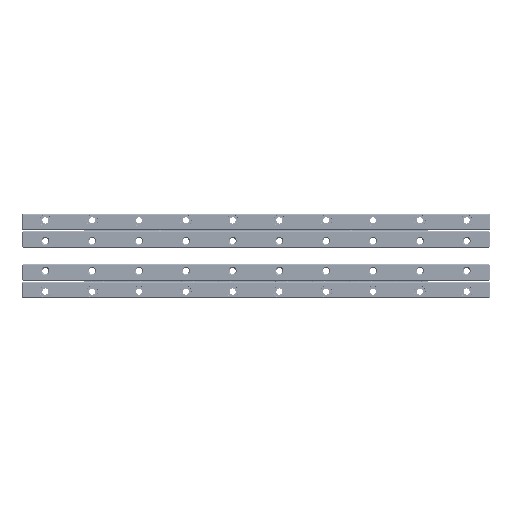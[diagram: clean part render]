
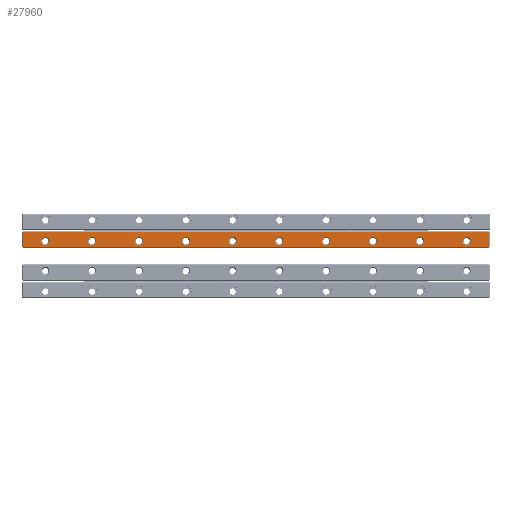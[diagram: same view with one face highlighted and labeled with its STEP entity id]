
A CAD part, top view. The second image highlights one B-rep face of the part: STEP entity #27960.
In plain terms, the highlighted planar face has unit normal (0, 0, 1).
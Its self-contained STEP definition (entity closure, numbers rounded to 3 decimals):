
#1906=LINE('',#170514,#10946);
#1907=LINE('',#170517,#10947);
#1908=LINE('',#170519,#10948);
#1909=LINE('',#170521,#10949);
#10946=VECTOR('',#135041,1.);
#10947=VECTOR('',#135042,1.);
#10948=VECTOR('',#135043,1.);
#10949=VECTOR('',#135044,1.);
#24401=FACE_BOUND('',#42339,.T.);
#24402=FACE_BOUND('',#42340,.T.);
#24403=FACE_BOUND('',#42341,.T.);
#24404=FACE_BOUND('',#42342,.T.);
#24405=FACE_BOUND('',#42343,.T.);
#24406=FACE_BOUND('',#42344,.T.);
#24407=FACE_BOUND('',#42345,.T.);
#24408=FACE_BOUND('',#42346,.T.);
#24409=FACE_BOUND('',#42347,.T.);
#24410=FACE_BOUND('',#42348,.T.);
#24411=FACE_BOUND('',#42349,.T.);
#27960=ADVANCED_FACE('',(#24401,#24402,#24403,#24404,#24405,#24406,#24407,
#24408,#24409,#24410,#24411),#33943,.T.);
#33943=PLANE('',#119880);
#42339=EDGE_LOOP('',(#52457));
#42340=EDGE_LOOP('',(#52458));
#42341=EDGE_LOOP('',(#52459));
#42342=EDGE_LOOP('',(#52460));
#42343=EDGE_LOOP('',(#52461));
#42344=EDGE_LOOP('',(#52462));
#42345=EDGE_LOOP('',(#52463));
#42346=EDGE_LOOP('',(#52464));
#42347=EDGE_LOOP('',(#52465));
#42348=EDGE_LOOP('',(#52466));
#42349=EDGE_LOOP('',(#52467,#52468,#52469,#52470));
#52457=ORIENTED_EDGE('',*,*,#95509,.T.);
#52458=ORIENTED_EDGE('',*,*,#95510,.T.);
#52459=ORIENTED_EDGE('',*,*,#95511,.T.);
#52460=ORIENTED_EDGE('',*,*,#95512,.T.);
#52461=ORIENTED_EDGE('',*,*,#95513,.T.);
#52462=ORIENTED_EDGE('',*,*,#95514,.T.);
#52463=ORIENTED_EDGE('',*,*,#95515,.T.);
#52464=ORIENTED_EDGE('',*,*,#95516,.T.);
#52465=ORIENTED_EDGE('',*,*,#95517,.T.);
#52466=ORIENTED_EDGE('',*,*,#95518,.T.);
#52467=ORIENTED_EDGE('',*,*,#95519,.T.);
#52468=ORIENTED_EDGE('',*,*,#95520,.T.);
#52469=ORIENTED_EDGE('',*,*,#95521,.T.);
#52470=ORIENTED_EDGE('',*,*,#95522,.T.);
#83765=VERTEX_POINT('',#170495);
#83766=VERTEX_POINT('',#170497);
#83767=VERTEX_POINT('',#170499);
#83768=VERTEX_POINT('',#170501);
#83769=VERTEX_POINT('',#170503);
#83770=VERTEX_POINT('',#170505);
#83771=VERTEX_POINT('',#170507);
#83772=VERTEX_POINT('',#170509);
#83773=VERTEX_POINT('',#170511);
#83774=VERTEX_POINT('',#170513);
#83775=VERTEX_POINT('',#170515);
#83776=VERTEX_POINT('',#170516);
#83777=VERTEX_POINT('',#170518);
#83778=VERTEX_POINT('',#170520);
#95509=EDGE_CURVE('',#83765,#83765,#112682,.T.);
#95510=EDGE_CURVE('',#83766,#83766,#112683,.T.);
#95511=EDGE_CURVE('',#83767,#83767,#112684,.T.);
#95512=EDGE_CURVE('',#83768,#83768,#112685,.T.);
#95513=EDGE_CURVE('',#83769,#83769,#112686,.T.);
#95514=EDGE_CURVE('',#83770,#83770,#112687,.T.);
#95515=EDGE_CURVE('',#83771,#83771,#112688,.T.);
#95516=EDGE_CURVE('',#83772,#83772,#112689,.T.);
#95517=EDGE_CURVE('',#83773,#83773,#112690,.T.);
#95518=EDGE_CURVE('',#83774,#83774,#112691,.T.);
#95519=EDGE_CURVE('',#83775,#83776,#1906,.T.);
#95520=EDGE_CURVE('',#83776,#83777,#1907,.T.);
#95521=EDGE_CURVE('',#83777,#83778,#1908,.T.);
#95522=EDGE_CURVE('',#83778,#83775,#1909,.T.);
#112682=CIRCLE('',#119870,2.175);
#112683=CIRCLE('',#119871,2.175);
#112684=CIRCLE('',#119872,2.175);
#112685=CIRCLE('',#119873,2.175);
#112686=CIRCLE('',#119874,2.175);
#112687=CIRCLE('',#119875,2.175);
#112688=CIRCLE('',#119876,2.175);
#112689=CIRCLE('',#119877,2.175);
#112690=CIRCLE('',#119878,2.175);
#112691=CIRCLE('',#119879,2.175);
#119870=AXIS2_PLACEMENT_3D('',#170494,#135021,#135022);
#119871=AXIS2_PLACEMENT_3D('',#170496,#135023,#135024);
#119872=AXIS2_PLACEMENT_3D('',#170498,#135025,#135026);
#119873=AXIS2_PLACEMENT_3D('',#170500,#135027,#135028);
#119874=AXIS2_PLACEMENT_3D('',#170502,#135029,#135030);
#119875=AXIS2_PLACEMENT_3D('',#170504,#135031,#135032);
#119876=AXIS2_PLACEMENT_3D('',#170506,#135033,#135034);
#119877=AXIS2_PLACEMENT_3D('',#170508,#135035,#135036);
#119878=AXIS2_PLACEMENT_3D('',#170510,#135037,#135038);
#119879=AXIS2_PLACEMENT_3D('',#170512,#135039,#135040);
#119880=AXIS2_PLACEMENT_3D('',#170522,#135045,#135046);
#135021=DIRECTION('',(0.,0.,-1.));
#135022=DIRECTION('',(-1.,0.,0.));
#135023=DIRECTION('',(0.,0.,-1.));
#135024=DIRECTION('',(-1.,0.,0.));
#135025=DIRECTION('',(0.,0.,-1.));
#135026=DIRECTION('',(-1.,0.,0.));
#135027=DIRECTION('',(0.,0.,-1.));
#135028=DIRECTION('',(-1.,0.,0.));
#135029=DIRECTION('',(0.,0.,-1.));
#135030=DIRECTION('',(-1.,0.,0.));
#135031=DIRECTION('',(0.,0.,-1.));
#135032=DIRECTION('',(-1.,0.,0.));
#135033=DIRECTION('',(0.,0.,-1.));
#135034=DIRECTION('',(-1.,0.,0.));
#135035=DIRECTION('',(0.,0.,-1.));
#135036=DIRECTION('',(-1.,0.,0.));
#135037=DIRECTION('',(0.,0.,-1.));
#135038=DIRECTION('',(-1.,0.,0.));
#135039=DIRECTION('',(0.,0.,-1.));
#135040=DIRECTION('',(-1.,0.,0.));
#135041=DIRECTION('',(1.,0.,0.));
#135042=DIRECTION('',(0.,1.,0.));
#135043=DIRECTION('',(-1.,0.,0.));
#135044=DIRECTION('',(0.,-1.,0.));
#135045=DIRECTION('',(0.,0.,1.));
#135046=DIRECTION('',(1.,0.,0.));
#170494=CARTESIAN_POINT('',(12.5,30.5,8.));
#170495=CARTESIAN_POINT('',(10.325,30.5,8.));
#170496=CARTESIAN_POINT('',(37.5,30.5,8.));
#170497=CARTESIAN_POINT('',(35.325,30.5,8.));
#170498=CARTESIAN_POINT('',(62.5,30.5,8.));
#170499=CARTESIAN_POINT('',(60.325,30.5,8.));
#170500=CARTESIAN_POINT('',(87.5,30.5,8.));
#170501=CARTESIAN_POINT('',(85.325,30.5,8.));
#170502=CARTESIAN_POINT('',(112.5,30.5,8.));
#170503=CARTESIAN_POINT('',(110.325,30.5,8.));
#170504=CARTESIAN_POINT('',(137.5,30.5,8.));
#170505=CARTESIAN_POINT('',(135.325,30.5,8.));
#170506=CARTESIAN_POINT('',(162.5,30.5,8.));
#170507=CARTESIAN_POINT('',(160.325,30.5,8.));
#170508=CARTESIAN_POINT('',(187.5,30.5,8.));
#170509=CARTESIAN_POINT('',(185.325,30.5,8.));
#170510=CARTESIAN_POINT('',(212.5,30.5,8.));
#170511=CARTESIAN_POINT('',(210.325,30.5,8.));
#170512=CARTESIAN_POINT('',(237.5,30.5,8.));
#170513=CARTESIAN_POINT('',(235.325,30.5,8.));
#170514=CARTESIAN_POINT('',(125.,27.425,8.));
#170515=CARTESIAN_POINT('',(0.425,27.425,8.));
#170516=CARTESIAN_POINT('',(249.575,27.425,8.));
#170517=CARTESIAN_POINT('',(249.575,31.3,8.));
#170518=CARTESIAN_POINT('',(249.575,35.175,8.));
#170519=CARTESIAN_POINT('',(125.,35.175,8.));
#170520=CARTESIAN_POINT('',(0.425,35.175,8.));
#170521=CARTESIAN_POINT('',(0.425,31.3,8.));
#170522=CARTESIAN_POINT('',(125.,31.3,8.));
